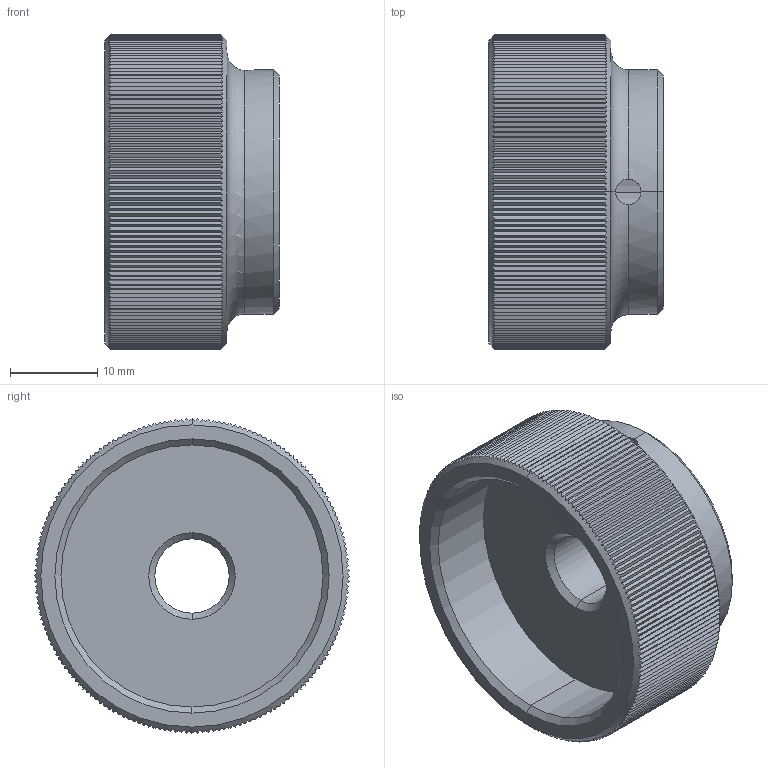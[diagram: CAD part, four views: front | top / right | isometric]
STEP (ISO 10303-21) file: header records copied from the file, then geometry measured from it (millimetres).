
FILE_DESCRIPTION (( 'STEP AP203' ), '1' );
FILE_NAME ('37160.W0110.step', '2011-09-15T08:14:05', ( 'Wixroyd' ), ( 'Wixroyd' ), 'SwSTEP 2.0', 'SolidWorks 2009', '' );
FILE_SCHEMA (( 'CONFIG_CONTROL_DESIGN' ));
Length unit declared in the file: millimetre
Products named in the file (1): 37160.W0110
Bounding box: 20 x 36 x 36 mm (x, y, z)
Volume: 11336.3 mm3; surface area: 5309.1 mm2
Topology: 1 solids, 1 shells, 384 faces, 1131 edges, 749 vertices
Faces by surface type: plane 364, cone 10, cylinder 8, torus 2
Entity records: 13416 total; most frequent: CARTESIAN_POINT 4527, ORIENTED_EDGE 2262, DIRECTION 1201, EDGE_CURVE 1131, VERTEX_POINT 749, B_SPLINE_CURVE_WITH_KNOTS 726, AXIS2_PLACEMENT_3D 411, EDGE_LOOP 388
